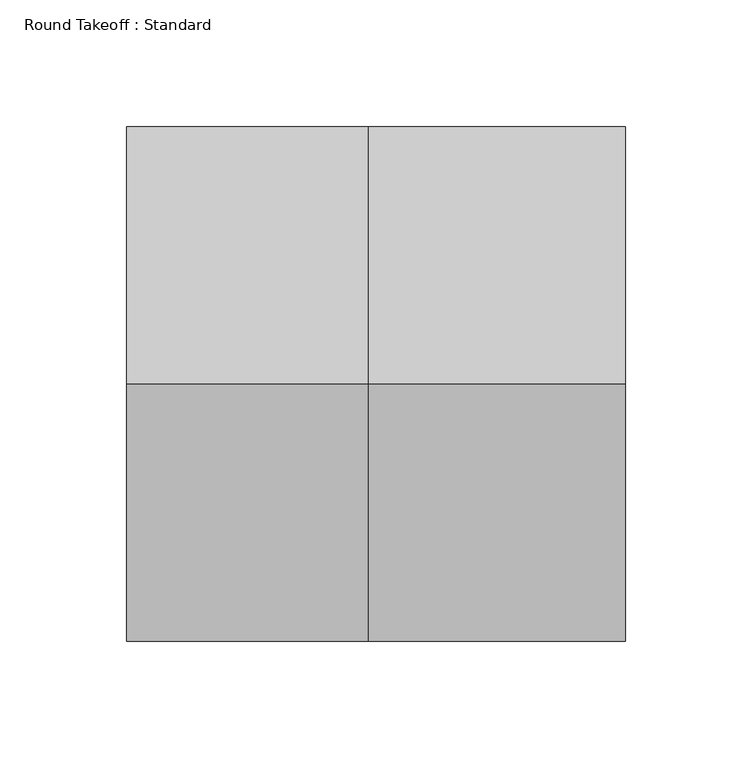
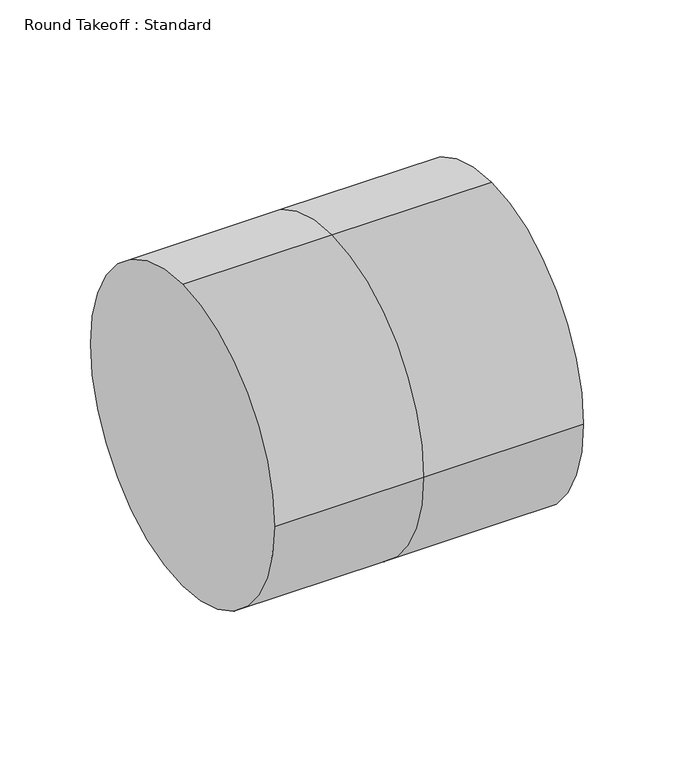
"""IFC4 building model written with IfcOpenShell, lengths in millimetres: duct fitting geometry, Round Takeoff : Standard."""

from ifc_helpers import new_model, si_unit, frame, origin, place, context, project, spatial, circle_curve, source, transform, mapped, element, save
from ifc_brep_helpers import plane_surface, cylinder_surface, advanced_brep


def round_takeoff_standard_1d5c4ba7(model_context):
    return source(origin(), model_context, "Body", "AdvancedBrep", [
        advanced_brep(
        [(101.6, 0.0, 101.6), (101.6, -101.6, 0.0), (101.6, 0.0, -101.6), (101.6, 101.6, 0.0), (0.0, 101.6, 0.0), (0.0, 0.0, 101.6), (0.0, 0.0, -101.6), (0.0, -101.6, 0.0), (-95.504, 0.0, 101.6), (-95.504, 101.6, 0.0), (-95.504, 0.0, -101.6), (-95.504, -101.6, 0.0)],
        [
            (0, 1, circle_curve(frame((101.6, 0.0, 0.0), z_axis=(1.0, 0.0, 0.0), x_axis=(0.0, 1.0, 0.0)), 101.6)),
            (1, 2, circle_curve(frame((101.6, 0.0, 0.0), z_axis=(1.0, 0.0, 0.0), x_axis=(0.0, 1.0, 0.0)), 101.6)),
            (2, 3, circle_curve(frame((101.6, 0.0, 0.0), z_axis=(1.0, 0.0, 0.0), x_axis=(0.0, 1.0, 0.0)), 101.6)),
            (3, 0, circle_curve(frame((101.6, 0.0, 0.0), z_axis=(1.0, 0.0, 0.0), x_axis=(0.0, 1.0, 0.0)), 101.6)),
            (3, 4),
            (4, 5, circle_curve(frame((0.0, 0.0, 0.0), z_axis=(1.0, 0.0, 0.0), x_axis=(0.0, 1.0, 0.0)), 101.6)),
            (5, 0),
            (2, 6),
            (6, 4, circle_curve(frame((0.0, 0.0, 0.0), z_axis=(1.0, 0.0, 0.0), x_axis=(0.0, 1.0, 0.0)), 101.6)),
            (1, 7),
            (7, 6, circle_curve(frame((0.0, 0.0, 0.0), z_axis=(1.0, 0.0, 0.0), x_axis=(0.0, 1.0, 0.0)), 101.6)),
            (5, 7, circle_curve(frame((0.0, 0.0, 0.0), z_axis=(1.0, 0.0, 0.0), x_axis=(0.0, 1.0, 0.0)), 101.6)),
            (8, 9, circle_curve(frame((-95.504, 0.0, 0.0), z_axis=(-1.0, 0.0, 0.0), x_axis=(0.0, 1.0, 0.0)), 101.6)),
            (9, 10, circle_curve(frame((-95.504, 0.0, 0.0), z_axis=(-1.0, 0.0, 0.0), x_axis=(0.0, 1.0, 0.0)), 101.6)),
            (10, 11, circle_curve(frame((-95.504, 0.0, 0.0), z_axis=(-1.0, 0.0, 0.0), x_axis=(0.0, 1.0, 0.0)), 101.6)),
            (11, 8, circle_curve(frame((-95.504, 0.0, 0.0), z_axis=(-1.0, 0.0, 0.0), x_axis=(0.0, 1.0, 0.0)), 101.6)),
            (8, 5),
            (4, 9),
            (6, 10),
            (7, 11),
        ],
        [
            plane_surface(frame((101.6, 0.0, 0.0), z_axis=(1.0, 0.0, 0.0), x_axis=(0.0, 0.0, 1.0))),
            cylinder_surface(frame((0.0, 0.0, 0.0), z_axis=(-1.0, 0.0, 0.0), x_axis=(0.0, 1.0, 0.0)), 101.6),
            plane_surface(frame((-95.504, 0.0, 0.0), z_axis=(-1.0, 0.0, 0.0), x_axis=(0.0, 0.0, 1.0))),
            cylinder_surface(frame((-95.504, 0.0, 0.0), z_axis=(-1.0, 0.0, 0.0), x_axis=(0.0, 1.0, 0.0)), 101.6),
        ],
        [
            (0, [[1, 2, 3, 4]]),
            (1, [[-4, 5, 6, 7]]),
            (1, [[-3, 8, 9, -5]]),
            (1, [[-2, 10, 11, -8]]),
            (1, [[-1, -7, 12, -10]]),
            (2, [[13, 14, 15, 16]]),
            (3, [[-13, 17, -6, 18]]),
            (3, [[-14, -18, -9, 19]]),
            (3, [[-15, -19, -11, 20]]),
            (3, [[-16, -20, -12, -17]]),
        ],
    ),
    ])


if __name__ == "__main__":
    model = new_model("IFC4")
    model_context = context("Model", 3, world=origin())
    ifc_project = project(units=[si_unit("LENGTHUNIT", "METRE", prefix="MILLI")], contexts=[model_context])
    site = spatial("IfcSite", under=ifc_project)
    building = spatial("IfcBuilding", under=site)
    placement = place(None, origin())
    round_takeoff_standard_shape = round_takeoff_standard_1d5c4ba7(model_context)
    element("IfcDuctFitting", 1, ObjectType="Round Takeoff : Standard", at=placement, inside=building, context=model_context, shape_type="MappedRepresentation", body=[
        mapped(round_takeoff_standard_shape, transform((0.0, 0.0, 0.0), x_axis=(1.0, 0.0, 0.0), y_axis=(0.0, 1.0, 0.0), z_axis=(0.0, 0.0, 1.0))),
    ])
    save(model, "model.ifc")
